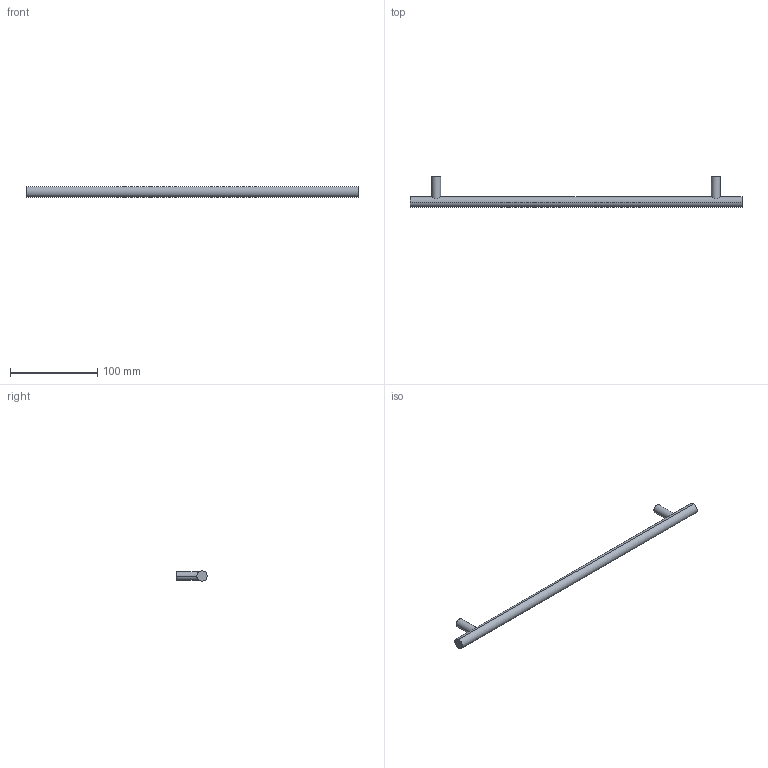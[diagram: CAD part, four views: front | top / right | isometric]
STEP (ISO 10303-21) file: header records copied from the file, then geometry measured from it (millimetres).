
FILE_DESCRIPTION( ( '' ), '1' );
FILE_NAME( 'D:/1.AUTOCAD EXPORT/Group 10/sheet_10_1/9071021.stp', '2013-10-21T10:15:40', ( '' ), ( '' ), ' ', ' ', ' ' );
FILE_SCHEMA( ( 'automotive_design' ) );
Length unit declared in the file: millimetre
Products named in the file (1): 1
Bounding box: 380 x 35 x 12 mm (x, y, z)
Volume: 46379.4 mm3; surface area: 16357.2 mm2
Topology: 1 solids, 1 shells, 16 faces, 32 edges, 22 vertices
Faces by surface type: cylinder 10, plane 6
Entity records: 972 total; most frequent: CARTESIAN_POINT 205, DIRECTION 76, STYLED_ITEM 71, PRESENTATION_STYLE_ASSIGNMENT 71, COLOUR_RGB 71, ORIENTED_EDGE 64, AXIS2_PLACEMENT_3D 33, EDGE_CURVE 32
